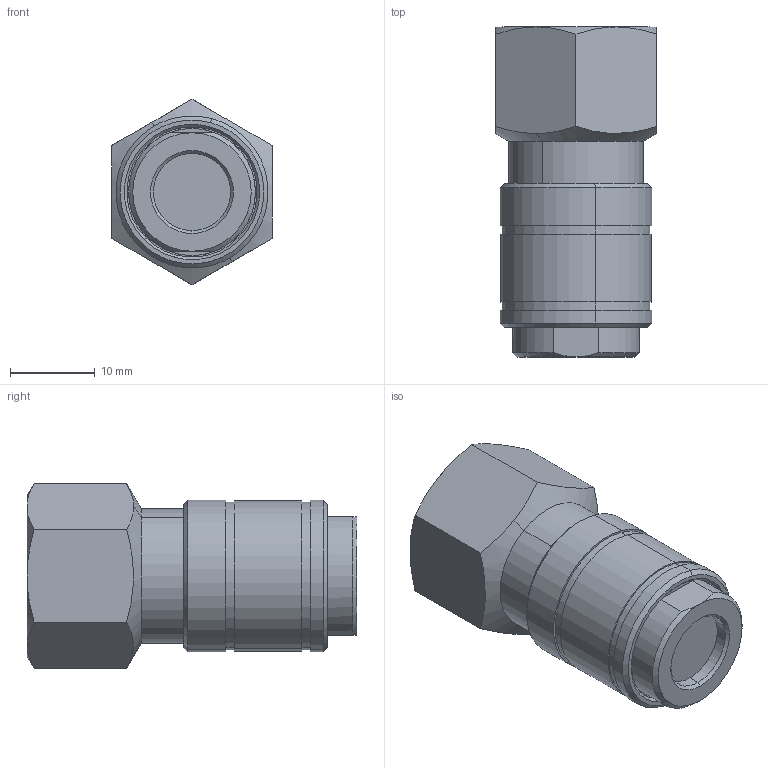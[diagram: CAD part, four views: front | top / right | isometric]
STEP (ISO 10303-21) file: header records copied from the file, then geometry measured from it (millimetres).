
FILE_DESCRIPTION (( 'STEP AP214' ), '1' );
FILE_NAME ('0011200003.step', '2012-11-15T17:58:00', ( '' ), ( '' ), 'SwSTEP 2.0', 'SolidWorks 2012', '' );
FILE_SCHEMA (( 'AUTOMOTIVE_DESIGN' ));
Length unit declared in the file: millimetre
Products named in the file (1): 0011200003
Bounding box: 19 x 39 x 21.94 mm (x, y, z)
Volume: 9400.6 mm3; surface area: 3264.4 mm2
Topology: 1 solids, 1 shells, 66 faces, 140 edges, 86 vertices
Faces by surface type: cone 22, cylinder 22, plane 22
Entity records: 2646 total; most frequent: CARTESIAN_POINT 451, DIRECTION 318, ORIENTED_EDGE 280, EDGE_CURVE 140, AXIS2_PLACEMENT_3D 135, VERTEX_POINT 86, EDGE_LOOP 76, UNCERTAINTY_MEASURE_WITH_UNIT 69
